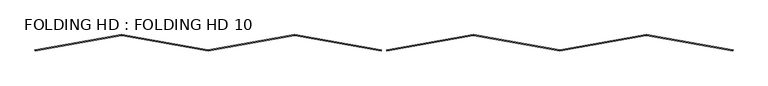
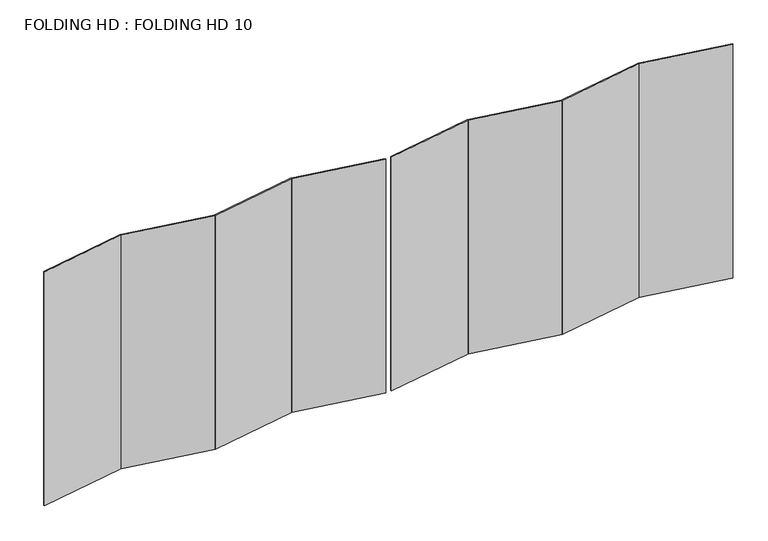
"""IFC4 building model written with IfcOpenShell, lengths in millimetres: plate geometry, FOLDING HD : FOLDING HD 10."""

from ifc_helpers import new_model, si_unit, origin, origin_with_axes, place, context, project, spatial, polyline, outline, extrude, source, transform, mapped, element, save


def folding_hd_folding_hd_10_b2af082d(model_context):
    return source(origin(), model_context, "Body", "SweptSolid", [
        extrude(outline(polyline([(2688.6730223, 156.2833599), (1802.3460446, 0.0), (1800.6095628, 9.8480775), (2686.9365405, 166.1314375), (2688.6730223, 156.2833599)])), origin_with_axes(), (0.0, 0.0, 1.0), 2570.0),
        extrude(outline(polyline([(2688.6730223, 156.2833599), (2690.4095041, 166.1314374), (3576.7364818, 9.8480775), (3575.0, 0.0), (2688.6730223, 156.2833599)])), origin_with_axes(), (0.0, 0.0, 1.0), 2570.0),
        extrude(outline(polyline([(916.0190669, 156.2833599), (917.7555486, 166.1314374), (1804.0825264, 9.8480775), (1802.3460446, 0.0), (916.0190669, 156.2833599)])), origin_with_axes(), (0.0, 0.0, 1.0), 2570.0),
        extrude(outline(polyline([(916.0190669, 156.2833599), (29.6920892, 0.0), (27.9556074, 9.8480775), (914.2825851, 166.1314374), (916.0190669, 156.2833599)])), origin_with_axes(), (0.0, 0.0, 1.0), 2570.0),
        extrude(outline(polyline([(-916.0190669, 156.2833599), (-1802.3460446, 0.0), (-1804.0825264, 9.8480775), (-917.7555486, 166.1314374), (-916.0190669, 156.2833599)])), origin_with_axes(), (0.0, 0.0, 1.0), 2570.0),
        extrude(outline(polyline([(-916.0190669, 156.2833599), (-914.2825851, 166.1314374), (-27.9556074, 9.8480775), (-29.6920892, 0.0), (-916.0190669, 156.2833599)])), origin_with_axes(), (0.0, 0.0, 1.0), 2570.0),
        extrude(outline(polyline([(-2688.6730223, 156.2833599), (-2686.9365405, 166.1314374), (-1800.6095628, 9.8480775), (-1802.3460446, 0.0), (-2688.6730223, 156.2833599)])), origin_with_axes(), (0.0, 0.0, 1.0), 2570.0),
        extrude(outline(polyline([(-2688.6730223, 156.2833599), (-3575.0, 0.0), (-3576.7364818, 9.8480775), (-2690.4095041, 166.1314374), (-2688.6730223, 156.2833599)])), origin_with_axes(), (0.0, 0.0, 1.0), 2570.0),
    ])


if __name__ == "__main__":
    model = new_model("IFC4")
    model_context = context("Model", 3, world=origin())
    ifc_project = project(units=[si_unit("LENGTHUNIT", "METRE", prefix="MILLI")], contexts=[model_context])
    site = spatial("IfcSite", under=ifc_project)
    building = spatial("IfcBuilding", under=site)
    placement = place(None, origin())
    folding_hd_folding_hd_10_shape = folding_hd_folding_hd_10_b2af082d(model_context)
    element("IfcPlate", 1, ObjectType="FOLDING HD : FOLDING HD 10", at=placement, inside=building, context=model_context, shape_type="MappedRepresentation", body=[
        mapped(folding_hd_folding_hd_10_shape, transform((0.0, 0.0, 0.0), x_axis=(1.0, 0.0, 0.0), y_axis=(0.0, 1.0, 0.0), z_axis=(0.0, 0.0, 1.0))),
    ])
    save(model, "model.ifc")
